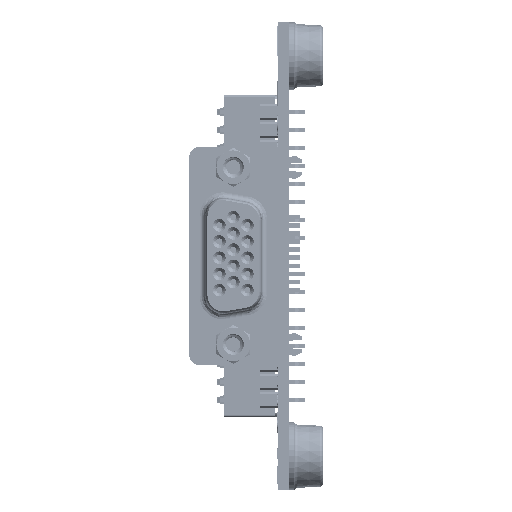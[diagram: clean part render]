
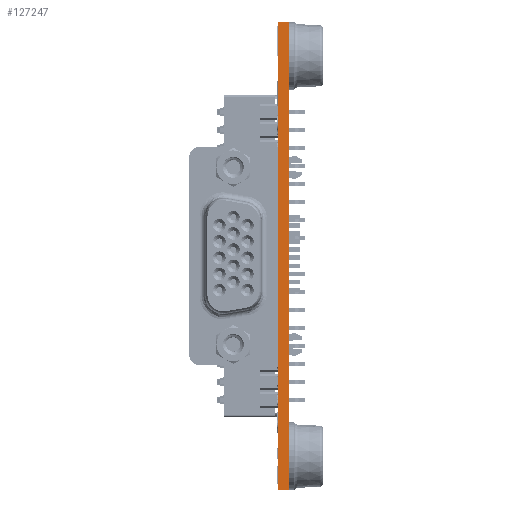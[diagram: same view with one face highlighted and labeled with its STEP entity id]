
A CAD part, left-side view. The second image highlights one B-rep face of the part: STEP entity #127247.
In plain terms, the highlighted planar face has unit normal (-1, 0, 0).
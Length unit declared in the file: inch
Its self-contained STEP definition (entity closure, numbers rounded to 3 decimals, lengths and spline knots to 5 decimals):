
#8875 = CARTESIAN_POINT ( 'NONE',  ( 17.46, -0.062, -3.8 ) ) ;
#15901 = VECTOR ( 'NONE', #197890, 39.37008 ) ;
#18324 = CARTESIAN_POINT ( 'NONE',  ( 17.46, 0., -3.8 ) ) ;
#19516 = FACE_OUTER_BOUND ( 'NONE', #246599, .T. ) ;
#35098 = LINE ( 'NONE', #18324, #61080 ) ;
#45970 = EDGE_CURVE ( 'NONE', #158981, #104675, #171764, .T. ) ;
#49155 = EDGE_CURVE ( 'NONE', #186455, #242016, #245720, .T. ) ;
#51866 = ORIENTED_EDGE ( 'NONE', *, *, #45970, .F. ) ;
#58349 = CARTESIAN_POINT ( 'NONE',  ( 17.46, -0.062, -6.4 ) ) ;
#59980 = DIRECTION ( 'NONE',  ( 0., 0., 1. ) ) ;
#61080 = VECTOR ( 'NONE', #59980, 39.37008 ) ;
#66046 = CARTESIAN_POINT ( 'NONE',  ( 17.46, -0.062, -6.4 ) ) ;
#73742 = EDGE_CURVE ( 'NONE', #158981, #186455, #206723, .T. ) ;
#77674 = EDGE_CURVE ( 'NONE', #104675, #242016, #35098, .T. ) ;
#96417 = CARTESIAN_POINT ( 'NONE',  ( 17.46, 0., -3.8 ) ) ;
#104675 = VERTEX_POINT ( 'NONE', #204435 ) ;
#116723 = VECTOR ( 'NONE', #207195, 39.37008 ) ;
#122332 = ORIENTED_EDGE ( 'NONE', *, *, #73742, .T. ) ;
#123737 = CARTESIAN_POINT ( 'NONE',  ( 17.46, -0.062, -3.8 ) ) ;
#127247 = ADVANCED_FACE ( 'NONE', ( #19516 ), #156451, .T. ) ;
#128097 = ORIENTED_EDGE ( 'NONE', *, *, #49155, .T. ) ;
#156451 = PLANE ( 'NONE',  #264554 ) ;
#158279 = DIRECTION ( 'NONE',  ( 0., 0., 1. ) ) ;
#158981 = VERTEX_POINT ( 'NONE', #58349 ) ;
#171764 = LINE ( 'NONE', #66046, #116723 ) ;
#177659 = VECTOR ( 'NONE', #266506, 39.37008 ) ;
#179023 = CARTESIAN_POINT ( 'NONE',  ( 17.46, -0.062, -3.8 ) ) ;
#186455 = VERTEX_POINT ( 'NONE', #238852 ) ;
#197890 = DIRECTION ( 'NONE',  ( 0., 1., 0. ) ) ;
#204435 = CARTESIAN_POINT ( 'NONE',  ( 17.46, 0., -6.4 ) ) ;
#206723 = LINE ( 'NONE', #123737, #177659 ) ;
#207195 = DIRECTION ( 'NONE',  ( 0., 1., 0. ) ) ;
#236682 = ORIENTED_EDGE ( 'NONE', *, *, #77674, .F. ) ;
#238852 = CARTESIAN_POINT ( 'NONE',  ( 17.46, -0.062, -3.8 ) ) ;
#242016 = VERTEX_POINT ( 'NONE', #96417 ) ;
#245720 = LINE ( 'NONE', #8875, #15901 ) ;
#246599 = EDGE_LOOP ( 'NONE', ( #236682, #51866, #122332, #128097 ) ) ;
#263864 = DIRECTION ( 'NONE',  ( -1., 0., 0. ) ) ;
#264554 = AXIS2_PLACEMENT_3D ( 'NONE', #179023, #263864, #158279 ) ;
#266506 = DIRECTION ( 'NONE',  ( 0., 0., 1. ) ) ;
